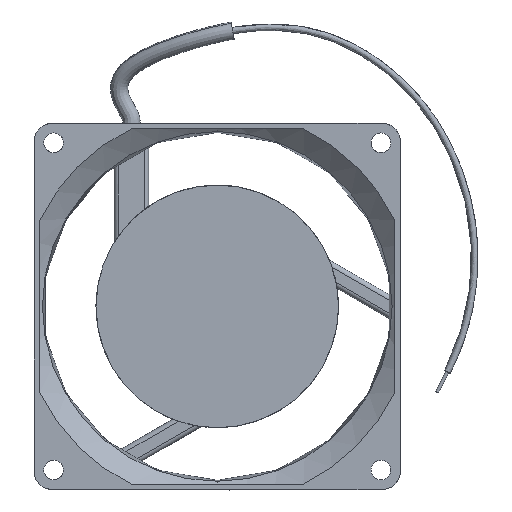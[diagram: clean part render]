
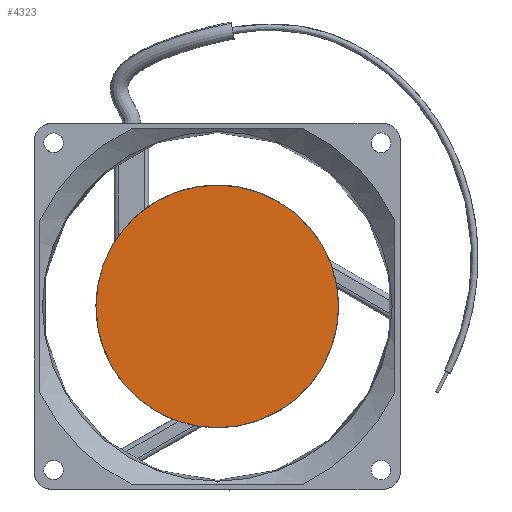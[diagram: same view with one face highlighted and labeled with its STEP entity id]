
A CAD part, front view. The second image highlights one B-rep face of the part: STEP entity #4323.
In plain terms, the highlighted planar face has unit normal (0, -1, 0).
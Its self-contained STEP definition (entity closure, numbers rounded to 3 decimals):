
#767 = CARTESIAN_POINT ( 'NONE',  ( -26.5, -15., -26.5 ) ) ;
#1362 = VERTEX_POINT ( 'NONE', #4582 ) ;
#1424 = ORIENTED_EDGE ( 'NONE', *, *, #4832, .T. ) ;
#1855 = CIRCLE ( 'NONE', #4676, 26.5 ) ;
#2060 = PLANE ( 'NONE',  #5261 ) ;
#2201 = CARTESIAN_POINT ( 'NONE',  ( 0., -15., -26.5 ) ) ;
#2404 = EDGE_LOOP ( 'NONE', ( #3127, #1424 ) ) ;
#2726 = DIRECTION ( 'NONE',  ( 0., 0., -1. ) ) ;
#2743 = DIRECTION ( 'NONE',  ( 0., -1., 0. ) ) ;
#3127 = ORIENTED_EDGE ( 'NONE', *, *, #3212, .T. ) ;
#3198 = DIRECTION ( 'NONE',  ( 0., -1., 0. ) ) ;
#3212 = EDGE_CURVE ( 'NONE', #5055, #1362, #5559, .T. ) ;
#3919 = FACE_OUTER_BOUND ( 'NONE', #2404, .T. ) ;
#4323 = ADVANCED_FACE ( 'NONE', ( #3919 ), #2060, .T. ) ;
#4582 = CARTESIAN_POINT ( 'NONE',  ( 0., -15., 26.5 ) ) ;
#4676 = AXIS2_PLACEMENT_3D ( 'NONE', #7058, #3198, #7720 ) ;
#4832 = EDGE_CURVE ( 'NONE', #1362, #5055, #1855, .T. ) ;
#5055 = VERTEX_POINT ( 'NONE', #2201 ) ;
#5261 = AXIS2_PLACEMENT_3D ( 'NONE', #767, #6596, #2726 ) ;
#5555 = AXIS2_PLACEMENT_3D ( 'NONE', #6617, #2743, #7251 ) ;
#5559 = CIRCLE ( 'NONE', #5555, 26.5 ) ;
#6596 = DIRECTION ( 'NONE',  ( 0., -1., 0. ) ) ;
#6617 = CARTESIAN_POINT ( 'NONE',  ( 0., -15., 0. ) ) ;
#7058 = CARTESIAN_POINT ( 'NONE',  ( 0., -15., 0. ) ) ;
#7251 = DIRECTION ( 'NONE',  ( 0., 0., -1. ) ) ;
#7720 = DIRECTION ( 'NONE',  ( 0., 0., -1. ) ) ;
